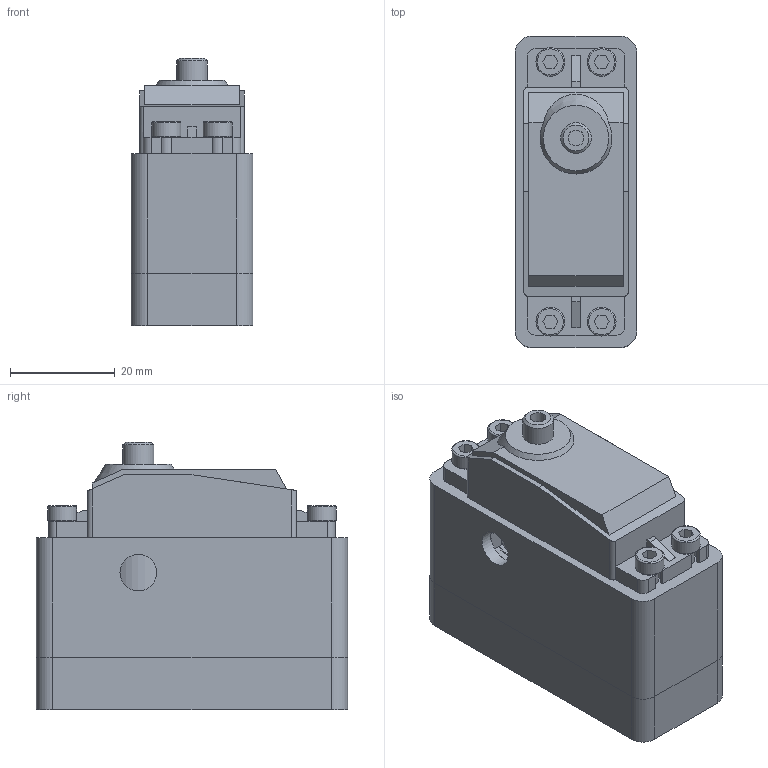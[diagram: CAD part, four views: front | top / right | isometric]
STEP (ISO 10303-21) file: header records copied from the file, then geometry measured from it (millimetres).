
FILE_DESCRIPTION(/* description */ (''),/* implementation_level */ '2;1');
FILE_NAME(/* name */ 'C:/Users/print/Downloads/Zeus 2.0 Quadruped/CAD Files/Servo Actuator 2.0 .step',/* time_stamp */ '2021-12-25T21:23:12-05:00',/* author */ (''),/* organization */ (''),/* preprocessor_version */ 'ST-DEVELOPER v18.1',/* originating_system */ 'Autodesk Translation Framework v10.10.0.1391',/* authorisation */ '');
FILE_SCHEMA (('AUTOMOTIVE_DESIGN { 1 0 10303 214 3 1 1 }'));
Length unit declared in the file: inch
Products named in the file (15): Servo Actuator 2.0; Servo Actuator 2.0_1; non 3D printed parts; 35 kg DS Servo v5; 8mm x 16mm x 5mm bearing v1; 1/16" thick aluminum bar; 8mm x 2.5mm magnet; AS5600 Absolute Encoder; m3 x 30mm screws; m3 x 10mm threaded inserts; 8mm lock collar; 3D printed parts; bottom housing; magnet mount; top housing
Assembly tree (14 placements, depth 4):
  Servo Actuator 2.0
    Servo Actuator 2.0_1
      non 3D printed parts
        35 kg DS Servo v5
        8mm x 16mm x 5mm bearing v1
        1/16" thick aluminum bar
        8mm x 2.5mm magnet
        AS5600 Absolute Encoder
        m3 x 30mm screws
        m3 x 10mm threaded inserts
        8mm lock collar
      3D printed parts
        bottom housing
        magnet mount
        top housing
Bounding box: 23.22 x 59.46 x 51.06 mm (x, y, z)
Volume: 52297.7 mm3; surface area: 27019.4 mm2
Topology: 23 solids, 23 shells, 314 faces, 699 edges, 460 vertices
Faces by surface type: plane 208, cylinder 90, torus 14, cone 2
Full cylindrical faces by diameter (mm): 3 x9, 3.4 x4, 3.9 x8, 4 x1, 4.4 x4, 4.9 x12, 5.5 x4, 5.9 x1, 6.35 x1, 7 x2, 8 x5, 10.5 x2, 13.5 x2, 14 x1, 16 x3, 17 x1, 17.5 x1, 17.588 x1
Entity records: 9319 total; most frequent: DIRECTION 1615, CARTESIAN_POINT 1539, ORIENTED_EDGE 1398, EDGE_CURVE 699, AXIS2_PLACEMENT_3D 575, LINE 465, VECTOR 465, VERTEX_POINT 460
